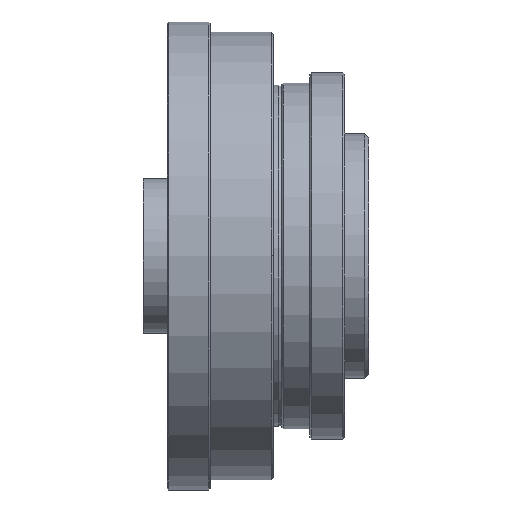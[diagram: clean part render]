
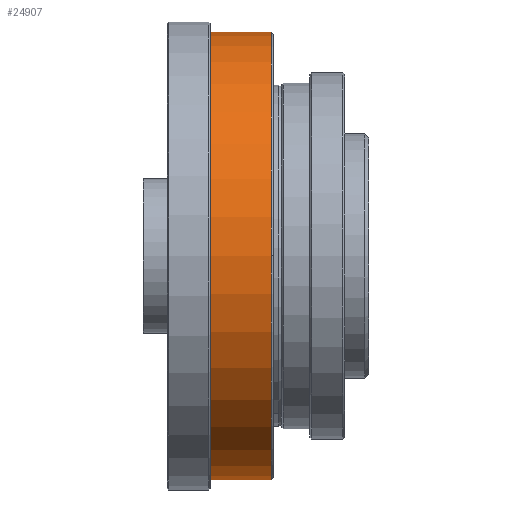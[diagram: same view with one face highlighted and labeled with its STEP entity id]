
A CAD part, top view. The second image highlights one B-rep face of the part: STEP entity #24907.
In plain terms, the highlighted cylindrical face has radius 55 mm (diameter 110 mm), a partial arc.
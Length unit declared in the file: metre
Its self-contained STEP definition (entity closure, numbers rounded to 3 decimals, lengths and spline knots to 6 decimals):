
#113 = DIRECTION ( 'NONE',  ( 1., 0., 0. ) ) ;
#5914 = FACE_OUTER_BOUND ( 'NONE', #46731, .T. ) ;
#6251 = DIRECTION ( 'NONE',  ( 0., -1., 0. ) ) ;
#6898 = CIRCLE ( 'NONE', #76071, 0.055 ) ;
#7573 = EDGE_CURVE ( 'NONE', #52926, #57066, #63552, .T. ) ;
#8145 = EDGE_CURVE ( 'NONE', #37619, #28534, #6898, .T. ) ;
#8330 = VERTEX_POINT ( 'NONE', #74358 ) ;
#11405 = CARTESIAN_POINT ( 'NONE',  ( 0.0315, 0., 0.055 ) ) ;
#13102 = CIRCLE ( 'NONE', #44449, 0.055 ) ;
#15078 = VECTOR ( 'NONE', #69416, 1. ) ;
#15308 = CARTESIAN_POINT ( 'NONE',  ( 0.0315, 0., 0. ) ) ;
#18941 = CARTESIAN_POINT ( 'NONE',  ( 0.0138, 0., 0. ) ) ;
#19553 = CARTESIAN_POINT ( 'NONE',  ( 0.008033, -0.055, 0. ) ) ;
#19780 = EDGE_CURVE ( 'NONE', #8330, #66331, #31830, .T. ) ;
#22259 = DIRECTION ( 'NONE',  ( -1., 0., 0. ) ) ;
#22496 = DIRECTION ( 'NONE',  ( 0., -1., 0. ) ) ;
#23280 = CARTESIAN_POINT ( 'NONE',  ( 0.0138, 0.055, 0. ) ) ;
#24907 = ADVANCED_FACE ( 'NONE', ( #5914 ), #79557, .T. ) ;
#28534 = VERTEX_POINT ( 'NONE', #38282 ) ;
#31830 = LINE ( 'NONE', #19553, #15078 ) ;
#32333 = CARTESIAN_POINT ( 'NONE',  ( 0.0138, -0.055, 0. ) ) ;
#33773 = DIRECTION ( 'NONE',  ( -1., 0., 0. ) ) ;
#37619 = VERTEX_POINT ( 'NONE', #11405 ) ;
#38282 = CARTESIAN_POINT ( 'NONE',  ( 0.0315, 0.055, 0. ) ) ;
#38314 = DIRECTION ( 'NONE',  ( 0., -1., 0. ) ) ;
#39317 = AXIS2_PLACEMENT_3D ( 'NONE', #64903, #63284, #38314 ) ;
#40633 = DIRECTION ( 'NONE',  ( 0., -1., 0. ) ) ;
#41764 = EDGE_CURVE ( 'NONE', #8330, #37619, #13102, .T. ) ;
#42870 = EDGE_CURVE ( 'NONE', #57066, #66331, #74617, .T. ) ;
#44449 = AXIS2_PLACEMENT_3D ( 'NONE', #15308, #22259, #40633 ) ;
#46731 = EDGE_LOOP ( 'NONE', ( #79072, #77812, #75662, #64539, #79783, #59170 ) ) ;
#52926 = VERTEX_POINT ( 'NONE', #23280 ) ;
#54643 = DIRECTION ( 'NONE',  ( 0., -1., 0. ) ) ;
#57066 = VERTEX_POINT ( 'NONE', #66939 ) ;
#59170 = ORIENTED_EDGE ( 'NONE', *, *, #41764, .T. ) ;
#59244 = EDGE_CURVE ( 'NONE', #28534, #52926, #65259, .T. ) ;
#63284 = DIRECTION ( 'NONE',  ( 1., 0., 0. ) ) ;
#63552 = CIRCLE ( 'NONE', #73991, 0.055 ) ;
#64539 = ORIENTED_EDGE ( 'NONE', *, *, #42870, .T. ) ;
#64903 = CARTESIAN_POINT ( 'NONE',  ( 0.0138, 0., 0. ) ) ;
#65028 = DIRECTION ( 'NONE',  ( -1., 0., 0. ) ) ;
#65259 = LINE ( 'NONE', #70557, #77601 ) ;
#66331 = VERTEX_POINT ( 'NONE', #32333 ) ;
#66939 = CARTESIAN_POINT ( 'NONE',  ( 0.0138, 0., 0.055 ) ) ;
#69416 = DIRECTION ( 'NONE',  ( -1., 0., 0. ) ) ;
#70557 = CARTESIAN_POINT ( 'NONE',  ( 0.008033, 0.055, 0. ) ) ;
#73408 = DIRECTION ( 'NONE',  ( -1., 0., 0. ) ) ;
#73822 = CARTESIAN_POINT ( 'NONE',  ( 0.008033, 0., 0. ) ) ;
#73991 = AXIS2_PLACEMENT_3D ( 'NONE', #18941, #113, #6251 ) ;
#74358 = CARTESIAN_POINT ( 'NONE',  ( 0.0315, -0.055, 0. ) ) ;
#74617 = CIRCLE ( 'NONE', #39317, 0.055 ) ;
#75662 = ORIENTED_EDGE ( 'NONE', *, *, #7573, .T. ) ;
#76071 = AXIS2_PLACEMENT_3D ( 'NONE', #78496, #65028, #22496 ) ;
#76860 = AXIS2_PLACEMENT_3D ( 'NONE', #73822, #73408, #54643 ) ;
#77601 = VECTOR ( 'NONE', #33773, 1. ) ;
#77812 = ORIENTED_EDGE ( 'NONE', *, *, #59244, .T. ) ;
#78496 = CARTESIAN_POINT ( 'NONE',  ( 0.0315, 0., 0. ) ) ;
#79072 = ORIENTED_EDGE ( 'NONE', *, *, #8145, .T. ) ;
#79557 = CYLINDRICAL_SURFACE ( 'NONE', #76860, 0.055 ) ;
#79783 = ORIENTED_EDGE ( 'NONE', *, *, #19780, .F. ) ;
